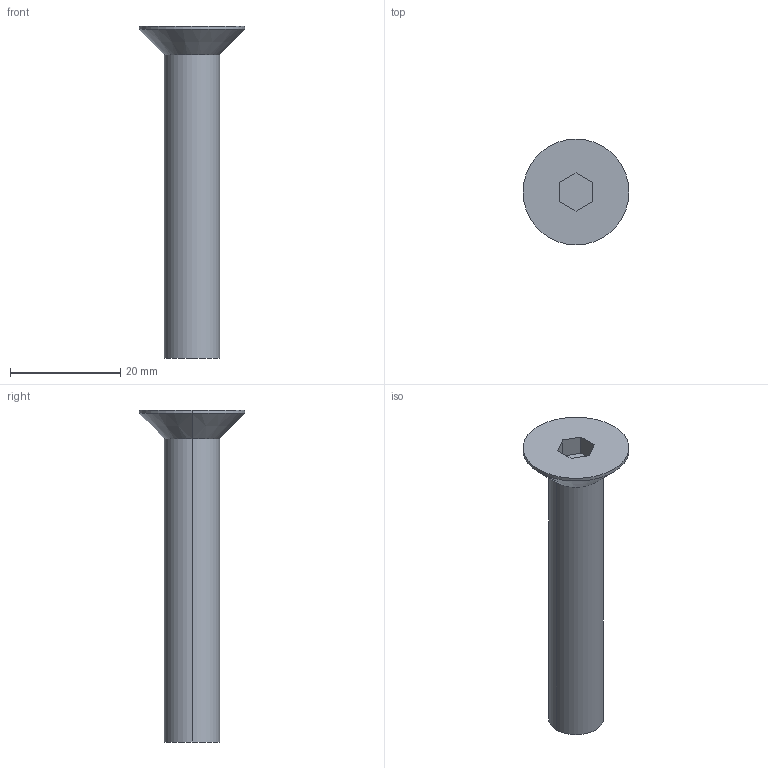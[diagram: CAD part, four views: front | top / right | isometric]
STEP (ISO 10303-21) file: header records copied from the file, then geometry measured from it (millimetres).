
FILE_DESCRIPTION (( 'STEP AP214' ), '1' );
FILE_NAME ('COUNTERSHUNK_HEAD_BOLT_M10(L=055).STEP', '2021-09-18T10:22:49', ( '' ), ( '' ), 'SwSTEP 2.0', 'SolidWorks 2018', '' );
FILE_SCHEMA (( 'AUTOMOTIVE_DESIGN' ));
Length unit declared in the file: millimetre
Products named in the file (1): COUNTERSHUNK_HEAD_BOLT_M10(L=055)
Bounding box: 19.22 x 19.22 x 60.22 mm (x, y, z)
Volume: 5182.9 mm3; surface area: 2507.4 mm2
Topology: 1 solids, 1 shells, 15 faces, 32 edges, 20 vertices
Faces by surface type: plane 9, cylinder 4, cone 2
Entity records: 436 total; most frequent: DIRECTION 72, CARTESIAN_POINT 68, ORIENTED_EDGE 64, EDGE_CURVE 32, AXIS2_PLACEMENT_3D 24, VECTOR 24, LINE 24, VERTEX_POINT 20
